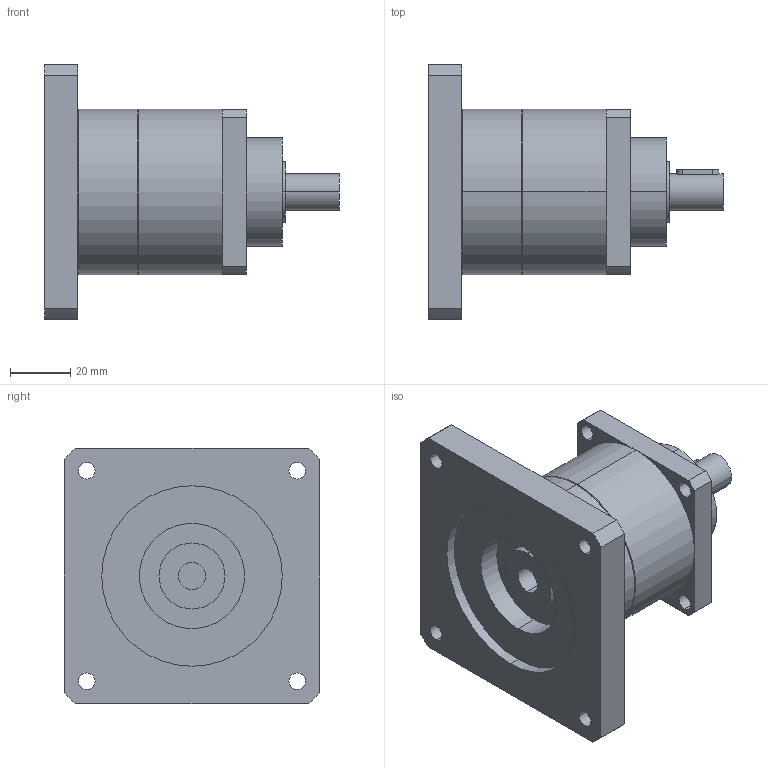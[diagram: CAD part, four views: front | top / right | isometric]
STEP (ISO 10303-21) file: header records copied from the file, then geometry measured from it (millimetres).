
FILE_DESCRIPTION(('CoCreate Modeling STEP Export'),'2;1');
FILE_NAME('GPT55_ig-3-4-5-7-10_12_B5A_9_P33.stp','2014-08-25T14:36:12',(''),(''),'CoCreate Modeling STEP processor for AP214 (Solid Model)','CoCreate Modeling 16.00C 25-Feb-2009 (C) Parametric Technology GmbH','');
FILE_SCHEMA(('AUTOMOTIVE_DESIGN { 1 0 10303 214 1 1 1 1 }'));
Length unit declared in the file: millimetre
Products named in the file (2): GPT55_ig-3-4-5-7-10_12_B5A_9_P33
Assembly tree (1 placements, depth 2):
  GPT55_ig-3-4-5-7-10_12_B5A_9_P33
    GPT55_ig-3-4-5-7-10_12_B5A_9_P33
Bounding box: 98 x 85 x 85 mm (x, y, z)
Volume: 212562.7 mm3; surface area: 35010.9 mm2
Topology: 1 solids, 1 shells, 77 faces, 204 edges, 139 vertices
Faces by surface type: cylinder 46, plane 27, cone 4
Entity records: 2515 total; most frequent: CARTESIAN_POINT 710, ORIENTED_EDGE 408, DIRECTION 318, EDGE_CURVE 204, VERTEX_POINT 139, AXIS2_PLACEMENT_3D 117, EDGE_LOOP 103, VECTOR 84
